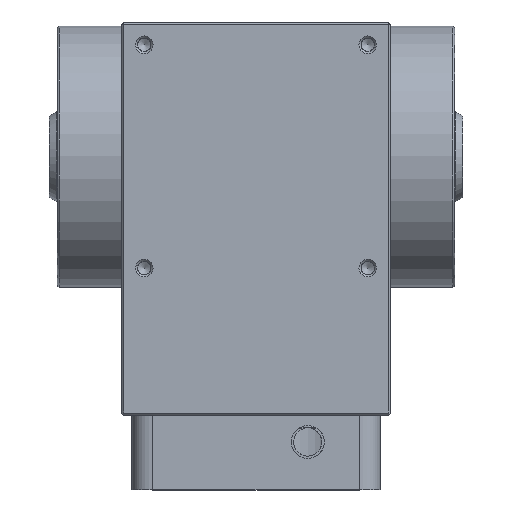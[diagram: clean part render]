
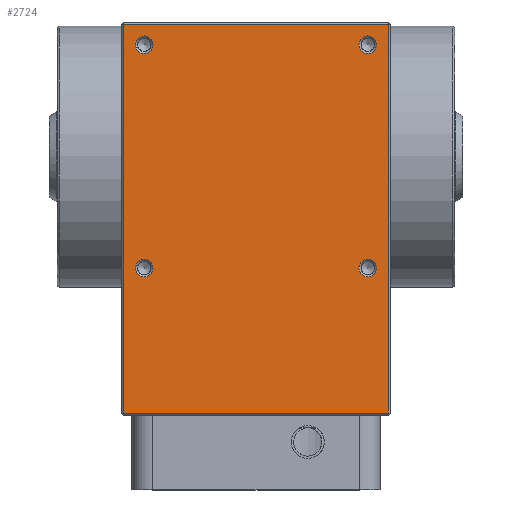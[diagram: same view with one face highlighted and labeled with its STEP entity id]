
A CAD part, top view. The second image highlights one B-rep face of the part: STEP entity #2724.
In plain terms, the highlighted planar face has unit normal (0, 0, 1).
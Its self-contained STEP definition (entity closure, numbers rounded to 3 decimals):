
#2605=CARTESIAN_POINT('',(-32.0,-62.0,65.0));
#2606=VERTEX_POINT('',#2605);
#2613=CARTESIAN_POINT('',(-32.0,32.,65.0));
#2614=VERTEX_POINT('',#2613);
#2615=CARTESIAN_POINT('',(-32.0,32.,65.0));
#2616=DIRECTION('',(0.0,-1.0,0.0));
#2617=VECTOR('',#2616,94.);
#2618=LINE('',#2615,#2617);
#2619=EDGE_CURVE('',#2614,#2606,#2618,.T.);
#2637=CARTESIAN_POINT('',(32.0,-62.0,65.0));
#2638=VERTEX_POINT('',#2637);
#2645=CARTESIAN_POINT('',(32.0,-62.0,65.0));
#2646=DIRECTION('',(-1.0,0.0,0.0));
#2647=VECTOR('',#2646,64.0);
#2648=LINE('',#2645,#2647);
#2649=EDGE_CURVE('',#2638,#2606,#2648,.T.);
#2657=CARTESIAN_POINT('',(0.,0.0,65.0));
#2658=DIRECTION('',(0.0,0.0,1.0));
#2659=DIRECTION('',(1.0,0.0,0.0));
#2660=AXIS2_PLACEMENT_3D('',#2657,#2658,#2659);
#2661=PLANE('',#2660);
#2662=ORIENTED_EDGE('',*,*,#2649,.F.);
#2663=CARTESIAN_POINT('',(32.0,32.0,65.0));
#2664=VERTEX_POINT('',#2663);
#2665=CARTESIAN_POINT('',(32.0,32.0,65.0));
#2666=DIRECTION('',(0.0,-1.0,0.0));
#2667=VECTOR('',#2666,94.0);
#2668=LINE('',#2665,#2667);
#2669=EDGE_CURVE('',#2664,#2638,#2668,.T.);
#2670=ORIENTED_EDGE('',*,*,#2669,.F.);
#2671=CARTESIAN_POINT('',(-32.0,32.0,65.0));
#2672=DIRECTION('',(1.0,0.0,0.0));
#2673=VECTOR('',#2672,64.0);
#2674=LINE('',#2671,#2673);
#2675=EDGE_CURVE('',#2614,#2664,#2674,.T.);
#2676=ORIENTED_EDGE('',*,*,#2675,.F.);
#2677=ORIENTED_EDGE('',*,*,#2619,.T.);
#2678=EDGE_LOOP('',(#2662,#2670,#2676,#2677));
#2679=FACE_OUTER_BOUND('',#2678,.T.);
#2680=CARTESIAN_POINT('',(-24.879,-27.0,65.0));
#2681=VERTEX_POINT('',#2680);
#2682=CARTESIAN_POINT('',(-27.,-27.0,65.0));
#2683=DIRECTION('',(0.0,0.0,1.0));
#2684=DIRECTION('',(-1.0,0.0,0.0));
#2685=AXIS2_PLACEMENT_3D('',#2682,#2683,#2684);
#2686=CIRCLE('',#2685,2.121);
#2687=EDGE_CURVE('',#2681,#2681,#2686,.T.);
#2688=ORIENTED_EDGE('',*,*,#2687,.F.);
#2689=EDGE_LOOP('',(#2688));
#2690=FACE_BOUND('',#2689,.T.);
#2691=CARTESIAN_POINT('',(29.121,27.0,65.0));
#2692=VERTEX_POINT('',#2691);
#2693=CARTESIAN_POINT('',(27.0,27.0,65.0));
#2694=DIRECTION('',(0.0,0.0,1.0));
#2695=DIRECTION('',(-1.0,0.0,0.0));
#2696=AXIS2_PLACEMENT_3D('',#2693,#2694,#2695);
#2697=CIRCLE('',#2696,2.121);
#2698=EDGE_CURVE('',#2692,#2692,#2697,.T.);
#2699=ORIENTED_EDGE('',*,*,#2698,.F.);
#2700=EDGE_LOOP('',(#2699));
#2701=FACE_BOUND('',#2700,.T.);
#2702=CARTESIAN_POINT('',(-24.879,27.0,65.0));
#2703=VERTEX_POINT('',#2702);
#2704=CARTESIAN_POINT('',(-27.,27.0,65.0));
#2705=DIRECTION('',(0.0,0.0,1.0));
#2706=DIRECTION('',(-1.0,0.0,0.0));
#2707=AXIS2_PLACEMENT_3D('',#2704,#2705,#2706);
#2708=CIRCLE('',#2707,2.121);
#2709=EDGE_CURVE('',#2703,#2703,#2708,.T.);
#2710=ORIENTED_EDGE('',*,*,#2709,.F.);
#2711=EDGE_LOOP('',(#2710));
#2712=FACE_BOUND('',#2711,.T.);
#2713=CARTESIAN_POINT('',(29.121,-27.0,65.0));
#2714=VERTEX_POINT('',#2713);
#2715=CARTESIAN_POINT('',(27.,-27.0,65.0));
#2716=DIRECTION('',(0.0,0.0,1.0));
#2717=DIRECTION('',(-1.0,0.0,0.0));
#2718=AXIS2_PLACEMENT_3D('',#2715,#2716,#2717);
#2719=CIRCLE('',#2718,2.121);
#2720=EDGE_CURVE('',#2714,#2714,#2719,.T.);
#2721=ORIENTED_EDGE('',*,*,#2720,.F.);
#2722=EDGE_LOOP('',(#2721));
#2723=FACE_BOUND('',#2722,.T.);
#2724=ADVANCED_FACE('',(#2679,#2690,#2701,#2712,#2723),#2661,.T.);
